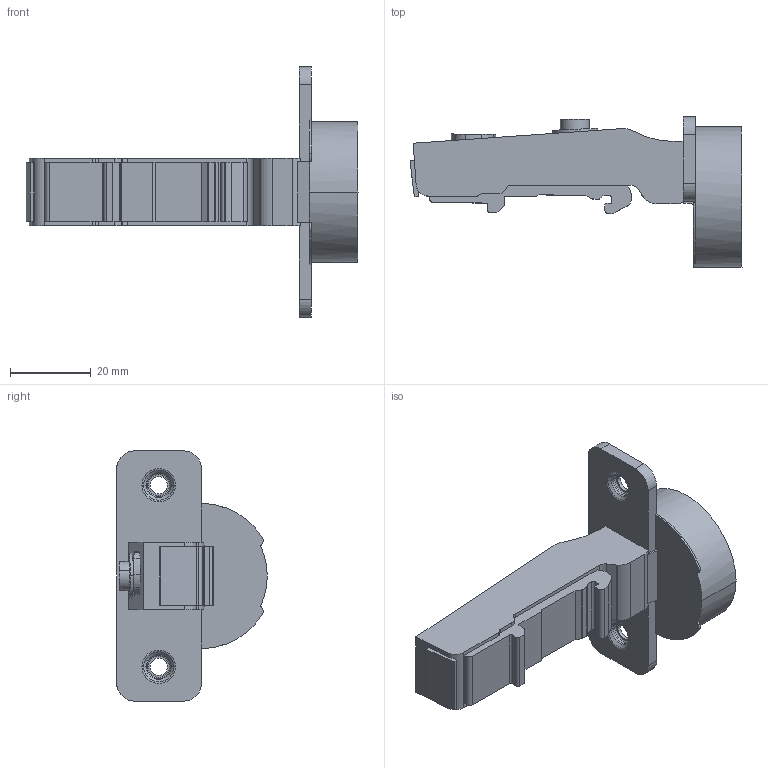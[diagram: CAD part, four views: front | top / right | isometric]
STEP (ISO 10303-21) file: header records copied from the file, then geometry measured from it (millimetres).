
FILE_DESCRIPTION (( 'STEP AP203' ), '1' );
FILE_NAME ('C80A675F-DTC3D close.STEP', '2021-04-10T08:30:39', ( '' ), ( '' ), 'SwSTEP 2.0', 'SolidWorks 2018', '' );
FILE_SCHEMA (( 'CONFIG_CONTROL_DESIGN' ));
Length unit declared in the file: millimetre
Products named in the file (1): C80A675F-DTC3D close
Bounding box: 82.25 x 37.3 x 62 mm (x, y, z)
Volume: 32732 mm3; surface area: 10112.3 mm2
Topology: 1 solids, 3 shells, 156 faces, 418 edges, 273 vertices
Faces by surface type: cylinder 68, plane 66, torus 14, bspline 4, cone 4
Entity records: 5209 total; most frequent: CARTESIAN_POINT 1184, DIRECTION 839, ORIENTED_EDGE 836, EDGE_CURVE 418, AXIS2_PLACEMENT_3D 302, VERTEX_POINT 273, VECTOR 235, LINE 235
